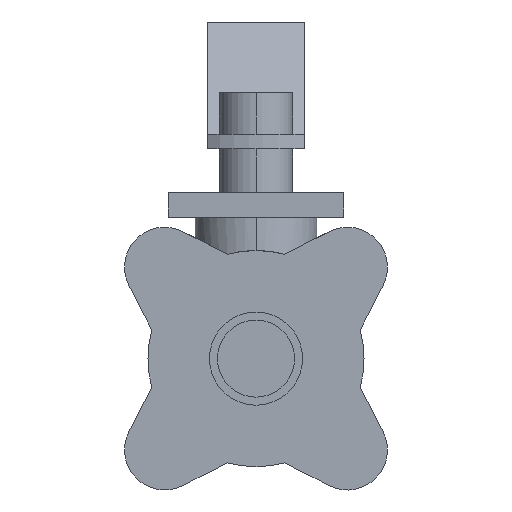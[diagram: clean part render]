
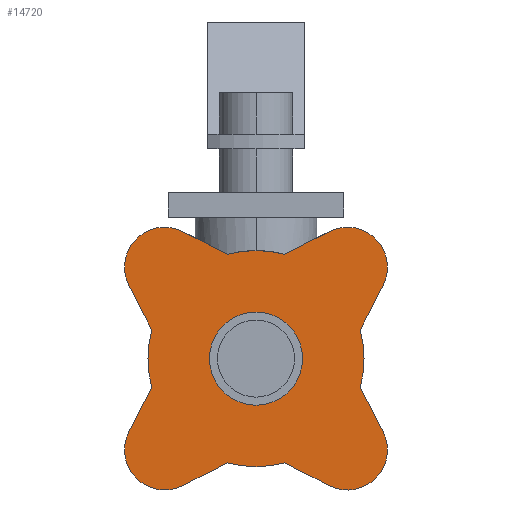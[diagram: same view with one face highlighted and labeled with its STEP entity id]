
A CAD part, left-side view. The second image highlights one B-rep face of the part: STEP entity #14720.
In plain terms, the highlighted planar face has unit normal (-1, 0, 0).
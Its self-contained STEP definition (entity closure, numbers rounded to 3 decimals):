
#200=CARTESIAN_POINT('',(-35.5,46.507,
-37.794));
#210=VERTEX_POINT('',#200);
#240=CARTESIAN_POINT('',(-35.5,65.434,
-43.944));
#250=DIRECTION('',(0.,0.951,
-0.309));
#260=VECTOR('',#250,1.);
#270=LINE('',#240,#260);
#280=CARTESIAN_POINT('',(-35.5,36.709,
-34.61));
#290=VERTEX_POINT('',#280);
#300=EDGE_CURVE('',#290,#210,#270,.T.);
#590=CARTESIAN_POINT('',(-35.5,54.761,
-46.047));
#600=VERTEX_POINT('',#590);
#630=CARTESIAN_POINT('',(-35.5,65.743,
-26.812));
#640=DIRECTION('',(-1.,0.,0.));
#650=DIRECTION('',(0.,1.,0.));
#660=AXIS2_PLACEMENT_3D('',#630,#640,#650);
#670=CIRCLE('',#660,22.15);
#680=EDGE_CURVE('',#600,#210,#670,.T.);
#910=CARTESIAN_POINT('',(-35.5,57.944,
-55.846));
#920=VERTEX_POINT('',#910);
#950=CARTESIAN_POINT('',(-35.5,57.944,
-55.846));
#960=DIRECTION('',(0.,0.309,
-0.951));
#970=VECTOR('',#960,1.);
#980=LINE('',#950,#970);
#990=EDGE_CURVE('',#600,#920,#980,.T.);
#1230=CARTESIAN_POINT('',(-35.5,73.542,
-55.846));
#1240=VERTEX_POINT('',#1230);
#1270=CARTESIAN_POINT('',(-35.5,65.743,
-53.312));
#1280=DIRECTION('',(-1.,0.,0.));
#1290=DIRECTION('',(0.,1.,0.));
#1300=AXIS2_PLACEMENT_3D('',#1270,#1280,#1290);
#1310=CIRCLE('',#1300,8.2);
#1320=EDGE_CURVE('',#1240,#920,#1310,.T.);
#1550=CARTESIAN_POINT('',(-35.5,76.725,
-46.047));
#1560=VERTEX_POINT('',#1550);
#1590=CARTESIAN_POINT('',(-35.5,82.875,
-27.121));
#1600=DIRECTION('',(0.,-0.309,
-0.951));
#1610=VECTOR('',#1600,1.);
#1620=LINE('',#1590,#1610);
#1630=EDGE_CURVE('',#1560,#1240,#1620,.T.);
#1870=CARTESIAN_POINT('',(-35.5,84.979,
-37.794));
#1880=VERTEX_POINT('',#1870);
#1910=CARTESIAN_POINT('',(-35.5,65.743,
-26.812));
#1920=DIRECTION('',(-1.,0.,0.));
#1930=DIRECTION('',(0.,1.,0.));
#1940=AXIS2_PLACEMENT_3D('',#1910,#1920,#1930);
#1950=CIRCLE('',#1940,22.15);
#1960=EDGE_CURVE('',#1880,#1560,#1950,.T.);
#2190=CARTESIAN_POINT('',(-35.5,94.777,
-34.61));
#2200=VERTEX_POINT('',#2190);
#2230=CARTESIAN_POINT('',(-35.5,66.052,
-43.944));
#2240=DIRECTION('',(0.,-0.951,
-0.309));
#2250=VECTOR('',#2240,1.);
#2260=LINE('',#2230,#2250);
#2270=EDGE_CURVE('',#2200,#1880,#2260,.T.);
#2510=CARTESIAN_POINT('',(-35.5,94.777,
-19.013));
#2520=VERTEX_POINT('',#2510);
#2550=CARTESIAN_POINT('',(-35.5,92.243,
-26.812));
#2560=DIRECTION('',(-1.,0.,0.));
#2570=DIRECTION('',(0.,1.,0.));
#2580=AXIS2_PLACEMENT_3D('',#2550,#2560,#2570);
#2590=CIRCLE('',#2580,8.2);
#2600=EDGE_CURVE('',#2520,#2200,#2590,.T.);
#2830=CARTESIAN_POINT('',(-35.5,84.979,
-15.829));
#2840=VERTEX_POINT('',#2830);
#2870=CARTESIAN_POINT('',(-35.5,66.052,
-9.68));
#2880=DIRECTION('',(0.,0.951,
-0.309));
#2890=VECTOR('',#2880,1.);
#2900=LINE('',#2870,#2890);
#2910=EDGE_CURVE('',#2840,#2520,#2900,.T.);
#3150=CARTESIAN_POINT('',(-35.5,76.725,
-7.576));
#3160=VERTEX_POINT('',#3150);
#3190=CARTESIAN_POINT('',(-35.5,65.743,
-26.812));
#3200=DIRECTION('',(-1.,0.,0.));
#3210=DIRECTION('',(0.,1.,0.));
#3220=AXIS2_PLACEMENT_3D('',#3190,#3200,#3210);
#3230=CIRCLE('',#3220,22.15);
#3240=EDGE_CURVE('',#3160,#2840,#3230,.T.);
#3470=CARTESIAN_POINT('',(-35.5,73.542,
2.222));
#3480=VERTEX_POINT('',#3470);
#3510=CARTESIAN_POINT('',(-35.5,82.875,
-26.503));
#3520=DIRECTION('',(0.,0.309,
-0.951));
#3530=VECTOR('',#3520,1.);
#3540=LINE('',#3510,#3530);
#3550=EDGE_CURVE('',#3480,#3160,#3540,.T.);
#3790=CARTESIAN_POINT('',(-35.5,57.944,
2.222));
#3800=VERTEX_POINT('',#3790);
#3830=CARTESIAN_POINT('',(-35.5,65.743,
-0.312));
#3840=DIRECTION('',(-1.,0.,0.));
#3850=DIRECTION('',(0.,1.,0.));
#3860=AXIS2_PLACEMENT_3D('',#3830,#3840,#3850);
#3870=CIRCLE('',#3860,8.2);
#3880=EDGE_CURVE('',#3800,#3480,#3870,.T.);
#4240=CARTESIAN_POINT('',(-35.5,54.761,
-7.576));
#4250=VERTEX_POINT('',#4240);
#4280=CARTESIAN_POINT('',(-35.5,48.611,
-26.503));
#4290=DIRECTION('',(0.,-0.309,
-0.951));
#4300=VECTOR('',#4290,1.);
#4310=LINE('',#4280,#4300);
#4320=EDGE_CURVE('',#3800,#4250,#4310,.T.);
#4830=CARTESIAN_POINT('',(-35.5,46.507,
-15.829));
#4840=VERTEX_POINT('',#4830);
#4870=CARTESIAN_POINT('',(-35.5,65.743,
-26.812));
#4880=DIRECTION('',(-1.,0.,0.));
#4890=DIRECTION('',(0.,1.,0.));
#4900=AXIS2_PLACEMENT_3D('',#4870,#4880,#4890);
#4910=CIRCLE('',#4900,22.15);
#4920=EDGE_CURVE('',#4840,#4250,#4910,.T.);
#5280=CARTESIAN_POINT('',(-35.5,36.709,
-19.013));
#5290=VERTEX_POINT('',#5280);
#5320=CARTESIAN_POINT('',(-35.5,65.434,
-9.68));
#5330=DIRECTION('',(0.,-0.951,
-0.309));
#5340=VECTOR('',#5330,1.);
#5350=LINE('',#5320,#5340);
#5360=EDGE_CURVE('',#4840,#5290,#5350,.T.);
#5550=CARTESIAN_POINT('',(-35.5,39.243,
-26.812));
#5560=DIRECTION('',(-1.,0.,0.));
#5570=DIRECTION('',(0.,1.,0.));
#5580=AXIS2_PLACEMENT_3D('',#5550,#5560,#5570);
#5590=CIRCLE('',#5580,8.2);
#5600=EDGE_CURVE('',#290,#5290,#5590,.T.);
#13700=CARTESIAN_POINT('',(-35.5,58.99,
-20.059));
#13710=VERTEX_POINT('',#13700);
#13740=CARTESIAN_POINT('',(-35.5,65.743,
-26.812));
#13750=DIRECTION('',(-1.,0.,0.));
#13760=DIRECTION('',(0.,-0.707,
0.707));
#13770=AXIS2_PLACEMENT_3D('',#13740,#13750,#13760);
#13780=CIRCLE('',#13770,9.55);
#13790=CARTESIAN_POINT('',(-35.5,72.496,
-33.564));
#13800=VERTEX_POINT('',#13790);
#13810=EDGE_CURVE('',#13800,#13710,#13780,.T.);
#14440=CARTESIAN_POINT('',(-35.5,33.093,
-26.812));
#14450=DIRECTION('',(1.,0.,-0.));
#14460=DIRECTION('',(0.,1.,0.));
#14470=AXIS2_PLACEMENT_3D('',#14440,#14450,#14460);
#14480=PLANE('',#14470);
#14490=ORIENTED_EDGE('',*,*,#300,.F.);
#14500=ORIENTED_EDGE('',*,*,#680,.T.);
#14510=ORIENTED_EDGE('',*,*,#990,.F.);
#14520=ORIENTED_EDGE('',*,*,#1320,.T.);
#14530=ORIENTED_EDGE('',*,*,#1630,.T.);
#14540=ORIENTED_EDGE('',*,*,#1960,.T.);
#14550=ORIENTED_EDGE('',*,*,#2270,.T.);
#14560=ORIENTED_EDGE('',*,*,#2600,.T.);
#14570=ORIENTED_EDGE('',*,*,#2910,.T.);
#14580=ORIENTED_EDGE('',*,*,#3240,.T.);
#14590=ORIENTED_EDGE('',*,*,#3550,.T.);
#14600=ORIENTED_EDGE('',*,*,#3880,.T.);
#14610=ORIENTED_EDGE('',*,*,#4320,.F.);
#14620=ORIENTED_EDGE('',*,*,#4920,.T.);
#14630=ORIENTED_EDGE('',*,*,#5360,.F.);
#14640=ORIENTED_EDGE('',*,*,#5600,.T.);
#14650=EDGE_LOOP('',(#14640,#14630,#14620,#14610,#14600,#14590,#14580,
#14570,#14560,#14550,#14540,#14530,#14520,#14510,#14500,#14490));
#14660=FACE_OUTER_BOUND('',#14650,.T.);
#14670=EDGE_CURVE('',#13710,#13800,#13780,.T.);
#14680=ORIENTED_EDGE('',*,*,#14670,.F.);
#14690=ORIENTED_EDGE('',*,*,#13810,.F.);
#14700=EDGE_LOOP('',(#14690,#14680));
#14710=FACE_BOUND('',#14700,.T.);
#14720=ADVANCED_FACE('',(#14660,#14710),#14480,.F.);
